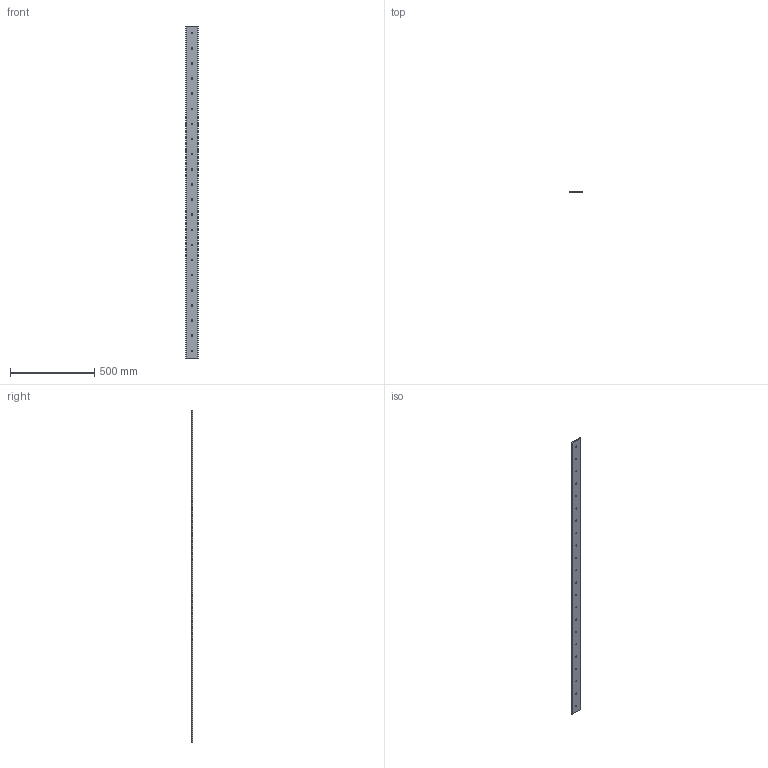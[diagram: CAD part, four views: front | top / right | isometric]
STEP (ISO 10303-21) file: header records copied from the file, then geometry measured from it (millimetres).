
FILE_DESCRIPTION(('STEP AP203'),'1');
FILE_NAME('slide_m76l1976p2.stp','2022-07-04T02:20:59',('TraceParts'),('TraceParts S.A.'),'Spatial InterOp 3D',' ',' ');
FILE_SCHEMA(('CONFIG_CONTROL_DESIGN'));
Length unit declared in the file: millimetre
Products named in the file (1): 1
Bounding box: 75.68 x 6.42 x 1976 mm (x, y, z)
Volume: 906194.8 mm3; surface area: 310861 mm2
Topology: 1 solids, 1 shells, 56 faces, 162 edges, 108 vertices
Faces by surface type: cylinder 48, plane 8
Entity records: 2034 total; most frequent: DIRECTION 372, CARTESIAN_POINT 327, ORIENTED_EDGE 324, EDGE_CURVE 162, AXIS2_PLACEMENT_3D 153, VERTEX_POINT 108, EDGE_LOOP 100, CIRCLE 96
